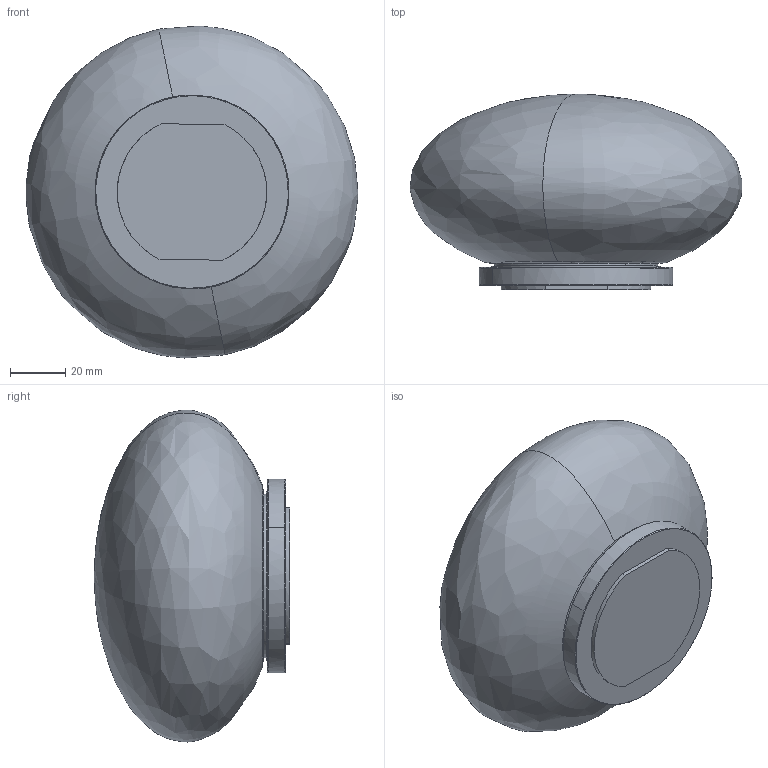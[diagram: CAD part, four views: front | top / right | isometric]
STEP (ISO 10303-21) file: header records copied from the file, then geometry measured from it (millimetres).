
FILE_DESCRIPTION(/* description */ (''),/* implementation_level */ '2;1');
FILE_NAME(/* name */ 'SEM.000230',/* time_stamp */ '2024-02-13T17:26:34+01:00',/* author */ (''),/* organization */ (''),/* preprocessor_version */ 'ST-DEVELOPER v16.5',/* originating_system */ 'Rhino 7.36',/* authorisation */ '');
FILE_SCHEMA (('CONFIG_CONTROL_DESIGN'));
Length unit declared in the file: millimetre
Products named in the file (3): Document; GOM.005109; VET.005122
Assembly tree (2 placements, depth 2):
  Document
    GOM.005109
    VET.005122
Bounding box: 119.83 x 70.5 x 119.84 mm (x, y, z)
Volume: 109523.4 mm3; surface area: 78037.5 mm2
Topology: 5 solids, 5 shells, 57 faces, 130 edges, 84 vertices
Faces by surface type: cylinder 22, bspline 20, plane 15
Entity records: 2612 total; most frequent: CARTESIAN_POINT 1495, ORIENTED_EDGE 252, EDGE_CURVE 126, VERTEX_POINT 84, EDGE_LOOP 68, ADVANCED_FACE 57, FACE_OUTER_BOUND 57, B_SPLINE_CURVE_WITH_KNOTS 53
